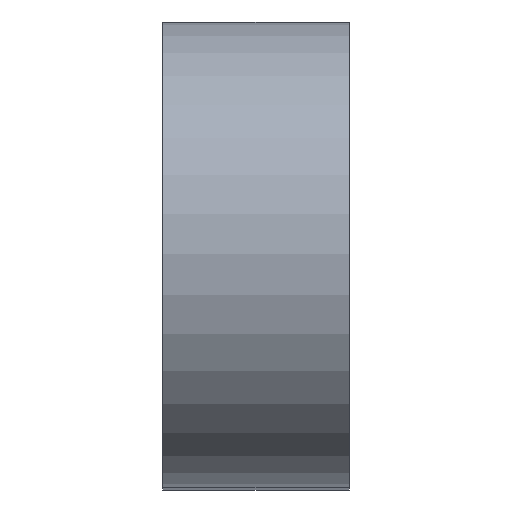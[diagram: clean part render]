
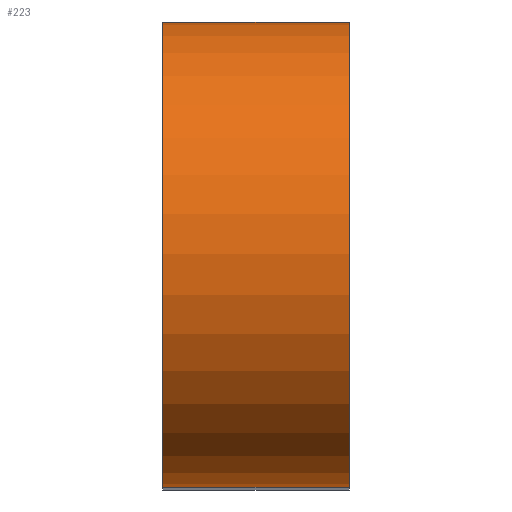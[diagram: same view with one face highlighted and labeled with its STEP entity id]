
A CAD part, top view. The second image highlights one B-rep face of the part: STEP entity #223.
In plain terms, the highlighted cylindrical face has radius 5 mm (diameter 10 mm), a partial arc.
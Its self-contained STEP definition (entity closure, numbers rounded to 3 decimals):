
#75 = FACE_OUTER_BOUND ( 'NONE', #414, .T. ) ;
#77 = DIRECTION ( 'NONE',  ( 1., 0., 0. ) ) ;
#114 = CARTESIAN_POINT ( 'NONE',  ( 0., 0., 0. ) ) ;
#116 = CARTESIAN_POINT ( 'NONE',  ( 4., 5., 0. ) ) ;
#126 = VERTEX_POINT ( 'NONE', #709 ) ;
#140 = CYLINDRICAL_SURFACE ( 'NONE', #611, 5. ) ;
#154 = CARTESIAN_POINT ( 'NONE',  ( 4., -5., 0. ) ) ;
#157 = AXIS2_PLACEMENT_3D ( 'NONE', #388, #77, #326 ) ;
#160 = CIRCLE ( 'NONE', #157, 5. ) ;
#183 = CIRCLE ( 'NONE', #804, 5. ) ;
#202 = ORIENTED_EDGE ( 'NONE', *, *, #752, .T. ) ;
#223 = ADVANCED_FACE ( 'NONE', ( #75 ), #140, .T. ) ;
#326 = DIRECTION ( 'NONE',  ( 0., 0.735, -0.678 ) ) ;
#327 = VECTOR ( 'NONE', #734, 1000. ) ;
#349 = CARTESIAN_POINT ( 'NONE',  ( 0., -5., 0. ) ) ;
#361 = VECTOR ( 'NONE', #415, 1000. ) ;
#388 = CARTESIAN_POINT ( 'NONE',  ( 4., 0., 0. ) ) ;
#414 = EDGE_LOOP ( 'NONE', ( #694, #202, #754, #607 ) ) ;
#415 = DIRECTION ( 'NONE',  ( 1., 0., 0. ) ) ;
#429 = VERTEX_POINT ( 'NONE', #438 ) ;
#438 = CARTESIAN_POINT ( 'NONE',  ( 0., -5., 0. ) ) ;
#476 = CARTESIAN_POINT ( 'NONE',  ( 0., 5., 0. ) ) ;
#499 = VERTEX_POINT ( 'NONE', #116 ) ;
#520 = VERTEX_POINT ( 'NONE', #154 ) ;
#557 = DIRECTION ( 'NONE',  ( 1., 0., 0. ) ) ;
#594 = DIRECTION ( 'NONE',  ( 1., 0., 0. ) ) ;
#597 = DIRECTION ( 'NONE',  ( 0., -1., 0. ) ) ;
#607 = ORIENTED_EDGE ( 'NONE', *, *, #815, .F. ) ;
#611 = AXIS2_PLACEMENT_3D ( 'NONE', #657, #594, #597 ) ;
#647 = LINE ( 'NONE', #349, #327 ) ;
#657 = CARTESIAN_POINT ( 'NONE',  ( 0., 0., 0. ) ) ;
#694 = ORIENTED_EDGE ( 'NONE', *, *, #828, .F. ) ;
#708 = EDGE_CURVE ( 'NONE', #429, #520, #647, .T. ) ;
#709 = CARTESIAN_POINT ( 'NONE',  ( 0., 5., 0. ) ) ;
#734 = DIRECTION ( 'NONE',  ( 1., 0., 0. ) ) ;
#752 = EDGE_CURVE ( 'NONE', #126, #429, #183, .T. ) ;
#754 = ORIENTED_EDGE ( 'NONE', *, *, #708, .T. ) ;
#801 = LINE ( 'NONE', #476, #361 ) ;
#804 = AXIS2_PLACEMENT_3D ( 'NONE', #114, #557, #812 ) ;
#812 = DIRECTION ( 'NONE',  ( 0., 0.735, -0.678 ) ) ;
#815 = EDGE_CURVE ( 'NONE', #499, #520, #160, .T. ) ;
#828 = EDGE_CURVE ( 'NONE', #126, #499, #801, .T. ) ;
